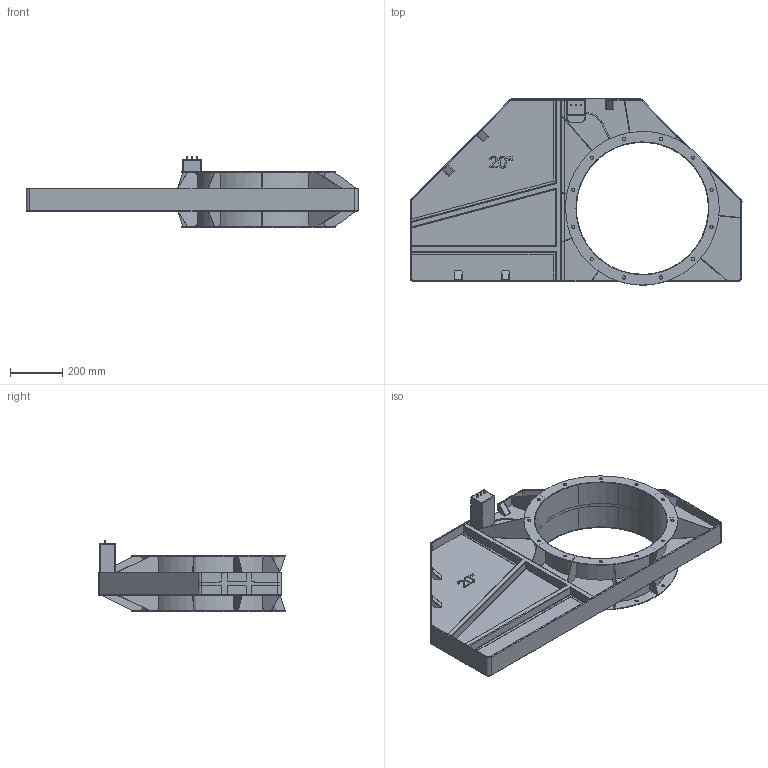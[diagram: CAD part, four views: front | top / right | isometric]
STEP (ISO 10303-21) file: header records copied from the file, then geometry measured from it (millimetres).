
FILE_DESCRIPTION( ('This file contains a STEP AP42 implementation' ,'as created by ZW3D STEP Interface translator.') ,'2;1' );
FILE_NAME( '3D Model-HO220 Body with drive.stp' ,'20 713.101613', (''), ('ZWCAD Software Co.'), 'Version 1.0', 'ZW3D to STEP translator', '' );
FILE_SCHEMA(('AUTOMOTIVE_DESIGN'));
Length unit declared in the file: millimetre
Products named in the file (1): 0
Bounding box: 1270.23 x 712.91 x 271.8 mm (x, y, z)
Volume: 13078429.6 mm3; surface area: 3228746.9 mm2
Topology: 34 solids, 34 shells, 1515 faces, 4021 edges, 2754 vertices
Faces by surface type: bspline 1515
Entity records: 48729 total; most frequent: CARTESIAN_POINT 23972, ORIENTED_EDGE 7792, EDGE_CURVE 3896, B_SPLINE_CURVE_WITH_KNOTS 3002, VERTEX_POINT 2508, EDGE_LOOP 1628, FACE_OUTER_BOUND 1515, ADVANCED_FACE 1515
